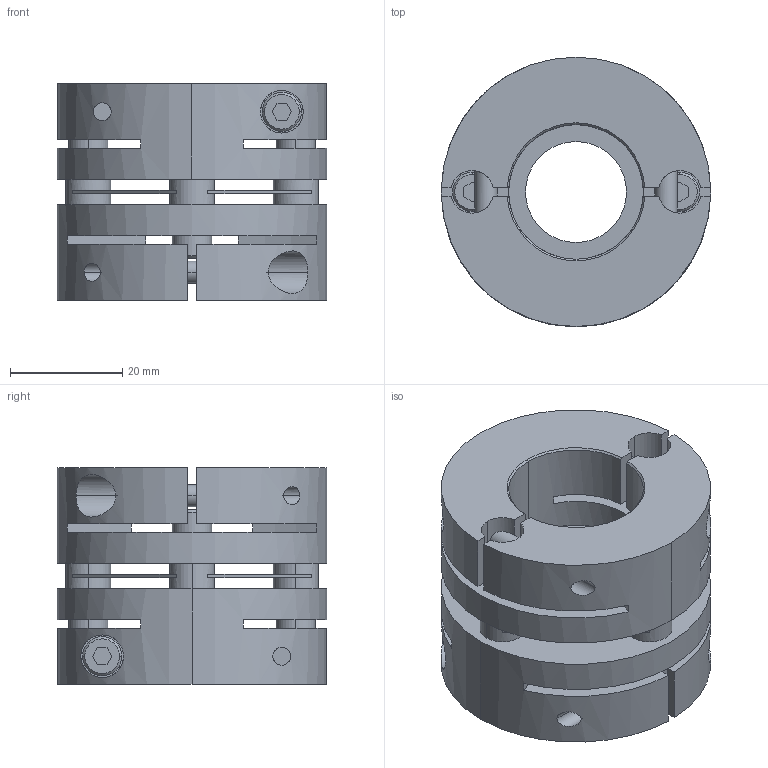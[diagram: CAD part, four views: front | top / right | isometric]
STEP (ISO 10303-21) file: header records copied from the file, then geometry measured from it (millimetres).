
FILE_DESCRIPTION((''),'2;1');
FILE_NAME('LAS-48C-19×24.stp','2011-08-09T17:05:01',(''),(''),'AutoCAD STEP 2000i','AutoCAD 2000i',', , ');
FILE_SCHEMA(('CONFIG_CONTROL_DESIGN'));
Length unit declared in the file: millimetre
Products named in the file (7): LAS-48C-19×19; 忣兜1; LA-4802-D19-1; LA-4802-D19; LA-4802-D12-1; LA-4802-D12; LAS48-ITA
Assembly tree (6 placements, depth 2):
  LAS-48C-19×19
    忣兜1
    LA-4802-D19-1
    LA-4802-D19
    LA-4802-D12-1
    LA-4802-D12
    LAS48-ITA
Bounding box: 48 x 48 x 38.6 mm (x, y, z)
Volume: 44363.5 mm3; surface area: 21371 mm2
Topology: 1 solids, 1 shells, 224 faces, 612 edges, 400 vertices
Faces by surface type: plane 112, cylinder 84, cone 28
Entity records: 8075 total; most frequent: CARTESIAN_POINT 2043, DIRECTION 1262, ORIENTED_EDGE 1224, EDGE_CURVE 612, AXIS2_PLACEMENT_3D 459, VERTEX_POINT 400, VECTOR 344, LINE 344
